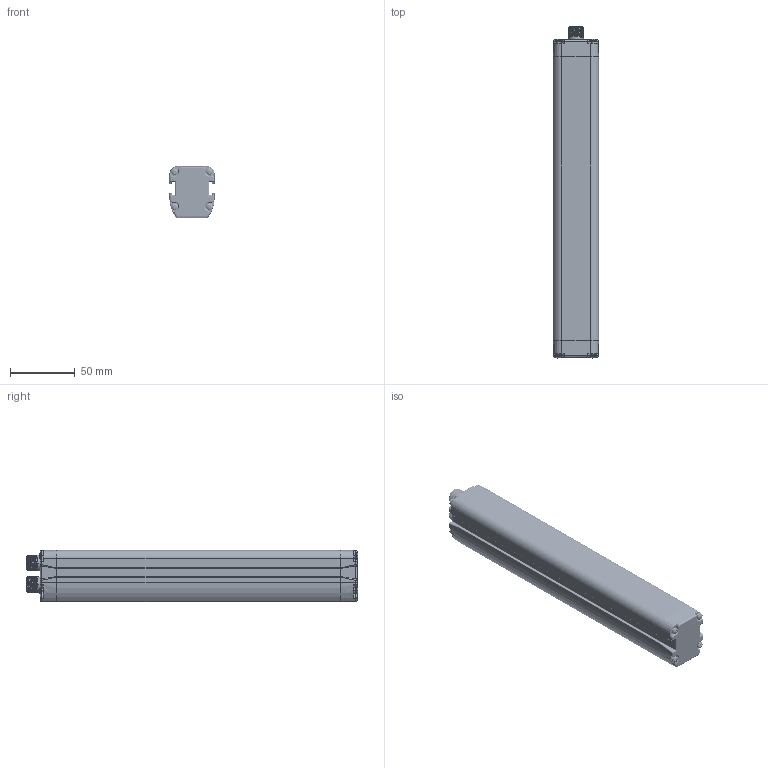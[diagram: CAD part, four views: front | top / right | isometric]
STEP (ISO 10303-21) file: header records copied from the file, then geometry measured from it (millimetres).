
FILE_DESCRIPTION((''),'2;1');
FILE_NAME('2009991','2012-01-30T',('rink'),(''),'PRO/ENGINEER BY PARAMETRIC TECHNOLOGY CORPORATION, 2011040','PRO/ENGINEER BY PARAMETRIC TECHNOLOGY CORPORATION, 2011040','');
FILE_SCHEMA(('AUTOMOTIVE_DESIGN_CC2 { 1 2 10303 214 -1 1 5 2 }'));
Products named in the file (1): 2009991
Bounding box: 35 x 256.58 x 40 mm (x, y, z)
Volume: 292646 mm3; surface area: 65379.2 mm2
Topology: 1 solids, 5 shells, 2506 faces, 6690 edges, 4044 vertices
Faces by surface type: cylinder 686, extrusion 526, plane 466, bspline 356, torus 274, sphere 166, cone 32
Entity records: 186474 total; most frequent: CARTESIAN_POINT 111286, ORIENTED_EDGE 13032, DIRECTION 9105, PRESENTATION_STYLE_ASSIGNMENT 6527, STYLED_ITEM 6522, CURVE_STYLE 6517, EDGE_CURVE 6516, VERTEX_POINT 4044
